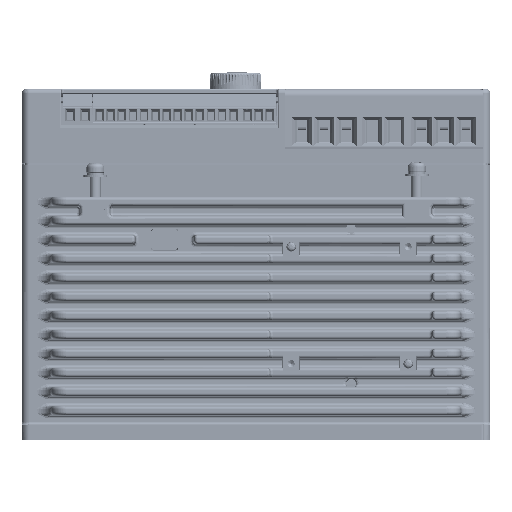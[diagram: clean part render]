
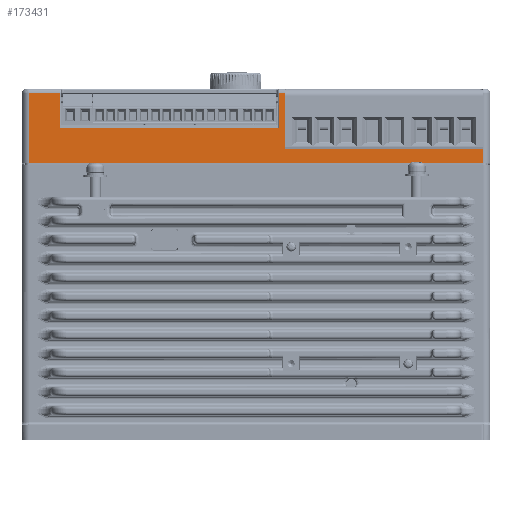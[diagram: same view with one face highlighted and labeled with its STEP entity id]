
A CAD part, left-side view. The second image highlights one B-rep face of the part: STEP entity #173431.
In plain terms, the highlighted planar face has unit normal (-1, 0, 0) as drawn and (0, -1, 0) by its records, which use the part's own axes.
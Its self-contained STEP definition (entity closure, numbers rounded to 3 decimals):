
#2502 = AXIS2_PLACEMENT_3D ( 'NONE', #155665, #373186, #186994 ) ;
#2916 = ORIENTED_EDGE ( 'NONE', *, *, #18644, .T. ) ;
#13672 = EDGE_CURVE ( 'NONE', #235297, #299711, #233954, .T. ) ;
#14321 = EDGE_CURVE ( 'NONE', #375632, #331386, #233567, .T. ) ;
#14646 = LINE ( 'NONE', #44759, #170307 ) ;
#18644 = EDGE_CURVE ( 'NONE', #139767, #184158, #197498, .T. ) ;
#31970 = VECTOR ( 'NONE', #302636, 1000. ) ;
#38736 = LINE ( 'NONE', #200910, #194501 ) ;
#40291 = ORIENTED_EDGE ( 'NONE', *, *, #370590, .T. ) ;
#40793 = CARTESIAN_POINT ( 'NONE',  ( -56., 0., 8. ) ) ;
#44759 = CARTESIAN_POINT ( 'NONE',  ( -56., 0., 80. ) ) ;
#45817 = DIRECTION ( 'NONE',  ( 1., 0., 0. ) ) ;
#61611 = EDGE_LOOP ( 'NONE', ( #269796, #257398, #219106, #203669, #295970, #186549, #40291, #2916, #151853, #338266 ) ) ;
#62841 = EDGE_CURVE ( 'NONE', #331386, #65725, #63312, .T. ) ;
#63312 = LINE ( 'NONE', #346420, #228843 ) ;
#64709 = VECTOR ( 'NONE', #368589, 1000. ) ;
#65725 = VERTEX_POINT ( 'NONE', #232999 ) ;
#74526 = LINE ( 'NONE', #399932, #64709 ) ;
#82118 = LINE ( 'NONE', #325304, #403293 ) ;
#85242 = CARTESIAN_POINT ( 'NONE',  ( -37., 0., 80. ) ) ;
#104962 = DIRECTION ( 'NONE',  ( -1., 0., 0. ) ) ;
#104972 = EDGE_CURVE ( 'NONE', #120333, #375632, #321018, .T. ) ;
#120333 = VERTEX_POINT ( 'NONE', #237703 ) ;
#137917 = CARTESIAN_POINT ( 'NONE',  ( -32., 0., -77.5 ) ) ;
#139767 = VERTEX_POINT ( 'NONE', #186503 ) ;
#143358 = VECTOR ( 'NONE', #104962, 1000. ) ;
#147015 = VERTEX_POINT ( 'NONE', #303149 ) ;
#150883 = VECTOR ( 'NONE', #317983, 1000. ) ;
#151853 = ORIENTED_EDGE ( 'NONE', *, *, #392373, .T. ) ;
#155665 = CARTESIAN_POINT ( 'NONE',  ( -57.5, 0., 80. ) ) ;
#160207 = DIRECTION ( 'NONE',  ( 0., 0., -1. ) ) ;
#169856 = DIRECTION ( 'NONE',  ( 0., 0., -1. ) ) ;
#170307 = VECTOR ( 'NONE', #169856, 1000. ) ;
#173431 = ADVANCED_FACE ( 'NONE', ( #250859 ), #403183, .F. ) ;
#184158 = VERTEX_POINT ( 'NONE', #225264 ) ;
#185538 = DIRECTION ( 'NONE',  ( 0., 0., -1. ) ) ;
#186503 = CARTESIAN_POINT ( 'NONE',  ( -37., 0., 77.5 ) ) ;
#186549 = ORIENTED_EDGE ( 'NONE', *, *, #13672, .F. ) ;
#186994 = DIRECTION ( 'NONE',  ( 0., 0., 1. ) ) ;
#194501 = VECTOR ( 'NONE', #45817, 1000. ) ;
#197498 = LINE ( 'NONE', #85242, #31970 ) ;
#200910 = CARTESIAN_POINT ( 'NONE',  ( -57.5, 0., -77.5 ) ) ;
#202764 = CARTESIAN_POINT ( 'NONE',  ( -56., 0., -67. ) ) ;
#203669 = ORIENTED_EDGE ( 'NONE', *, *, #384308, .T. ) ;
#219106 = ORIENTED_EDGE ( 'NONE', *, *, #273185, .T. ) ;
#225264 = CARTESIAN_POINT ( 'NONE',  ( -37., 0., 10. ) ) ;
#228843 = VECTOR ( 'NONE', #160207, 1000. ) ;
#232999 = CARTESIAN_POINT ( 'NONE',  ( -44., 0., -67. ) ) ;
#233567 = LINE ( 'NONE', #286789, #150883 ) ;
#233954 = LINE ( 'NONE', #403078, #316532 ) ;
#235297 = VERTEX_POINT ( 'NONE', #359843 ) ;
#237703 = CARTESIAN_POINT ( 'NONE',  ( -56., 0., 10. ) ) ;
#238412 = VECTOR ( 'NONE', #301906, 1000. ) ;
#250859 = FACE_OUTER_BOUND ( 'NONE', #61611, .T. ) ;
#256519 = VERTEX_POINT ( 'NONE', #202764 ) ;
#257398 = ORIENTED_EDGE ( 'NONE', *, *, #62841, .T. ) ;
#262828 = DIRECTION ( 'NONE',  ( -1., 0., 0. ) ) ;
#269796 = ORIENTED_EDGE ( 'NONE', *, *, #14321, .T. ) ;
#270701 = CARTESIAN_POINT ( 'NONE',  ( -56., 0., 80. ) ) ;
#273185 = EDGE_CURVE ( 'NONE', #65725, #256519, #381706, .T. ) ;
#286789 = CARTESIAN_POINT ( 'NONE',  ( -45., 0., 8. ) ) ;
#291105 = CARTESIAN_POINT ( 'NONE',  ( -57.5, 0., -67. ) ) ;
#295970 = ORIENTED_EDGE ( 'NONE', *, *, #346430, .T. ) ;
#299711 = VERTEX_POINT ( 'NONE', #137917 ) ;
#301906 = DIRECTION ( 'NONE',  ( 0., 0., -1. ) ) ;
#302636 = DIRECTION ( 'NONE',  ( 0., 0., -1. ) ) ;
#303149 = CARTESIAN_POINT ( 'NONE',  ( -56., 0., -77.5 ) ) ;
#316532 = VECTOR ( 'NONE', #185538, 1000. ) ;
#317983 = DIRECTION ( 'NONE',  ( 1., 0., 0. ) ) ;
#321018 = LINE ( 'NONE', #270701, #238412 ) ;
#325304 = CARTESIAN_POINT ( 'NONE',  ( -57.5, 0., 77.5 ) ) ;
#331386 = VERTEX_POINT ( 'NONE', #341053 ) ;
#338266 = ORIENTED_EDGE ( 'NONE', *, *, #104972, .T. ) ;
#341053 = CARTESIAN_POINT ( 'NONE',  ( -44., 0., 8. ) ) ;
#346420 = CARTESIAN_POINT ( 'NONE',  ( -44., 0., -67. ) ) ;
#346430 = EDGE_CURVE ( 'NONE', #147015, #299711, #38736, .T. ) ;
#359843 = CARTESIAN_POINT ( 'NONE',  ( -32., 0., 77.5 ) ) ;
#368589 = DIRECTION ( 'NONE',  ( -1., 0., 0. ) ) ;
#370590 = EDGE_CURVE ( 'NONE', #235297, #139767, #82118, .T. ) ;
#373186 = DIRECTION ( 'NONE',  ( 0., 1., 0. ) ) ;
#375632 = VERTEX_POINT ( 'NONE', #40793 ) ;
#381706 = LINE ( 'NONE', #291105, #143358 ) ;
#384308 = EDGE_CURVE ( 'NONE', #256519, #147015, #14646, .T. ) ;
#392373 = EDGE_CURVE ( 'NONE', #184158, #120333, #74526, .T. ) ;
#399932 = CARTESIAN_POINT ( 'NONE',  ( -37.5, 0., 10. ) ) ;
#403078 = CARTESIAN_POINT ( 'NONE',  ( -32., 0., -124.666 ) ) ;
#403183 = PLANE ( 'NONE',  #2502 ) ;
#403293 = VECTOR ( 'NONE', #262828, 1000. ) ;
